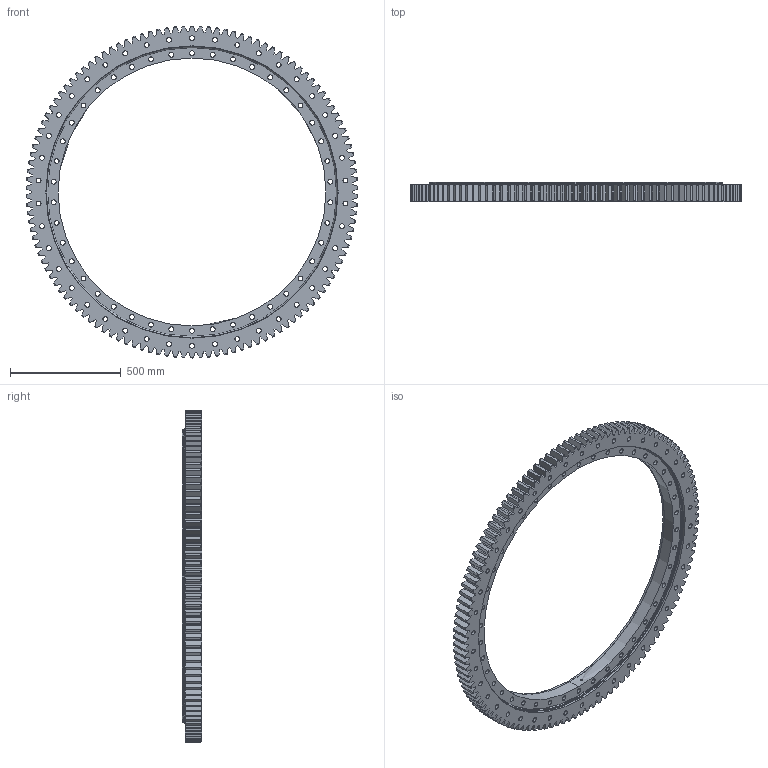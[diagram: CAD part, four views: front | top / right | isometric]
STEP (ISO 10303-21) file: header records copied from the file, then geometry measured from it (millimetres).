
FILE_DESCRIPTION (( 'STEP AP214' ), '1' );
FILE_NAME ('B2130-2-1498AA.STEP', '2022-11-28T14:18:40', ( '' ), ( '' ), 'SwSTEP 2.0', 'SolidWorks 2020', '' );
FILE_SCHEMA (( 'AUTOMOTIVE_DESIGN' ));
Length unit declared in the file: millimetre
Products named in the file (1): B2130-2-1498AA
Bounding box: 1497.35 x 87 x 1497.6 mm (x, y, z)
Volume: 37787264.6 mm3; surface area: 3375677.2 mm2
Topology: 4 solids, 4 shells, 976 faces, 2878 edges, 1917 vertices
Faces by surface type: cylinder 332, cone 254, bspline 244, plane 146
Entity records: 34575 total; most frequent: CARTESIAN_POINT 9909, ORIENTED_EDGE 5756, DIRECTION 4264, EDGE_CURVE 2878, VERTEX_POINT 1917, AXIS2_PLACEMENT_3D 1650, EDGE_LOOP 1165, B_SPLINE_CURVE_WITH_KNOTS 997
